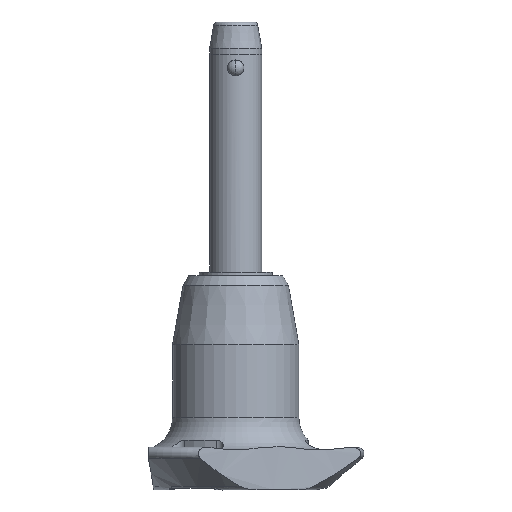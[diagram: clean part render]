
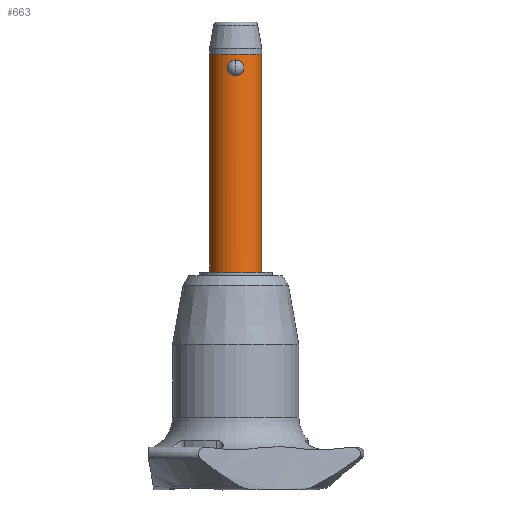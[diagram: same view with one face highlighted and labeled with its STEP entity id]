
A CAD part, front view. The second image highlights one B-rep face of the part: STEP entity #663.
In plain terms, the highlighted cylindrical face has radius 4 mm (diameter 8 mm), a partial arc.
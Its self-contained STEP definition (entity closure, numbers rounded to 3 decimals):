
#48 = FACE_OUTER_BOUND ( 'NONE', #719, .T. ) ;
#110 = CARTESIAN_POINT ( 'NONE',  ( 0.326, -3.99, 0.029 ) ) ;
#123 = CARTESIAN_POINT ( 'NONE',  ( -0.625, -3.951, 2.25 ) ) ;
#135 = CARTESIAN_POINT ( 'NONE',  ( -1.266, -3.794, 1.12 ) ) ;
#136 = CARTESIAN_POINT ( 'NONE',  ( -0.326, -3.99, 0.029 ) ) ;
#190 = DIRECTION ( 'NONE',  ( 1., 0., 0. ) ) ;
#300 = CARTESIAN_POINT ( 'NONE',  ( -0.325, -3.99, 2.371 ) ) ;
#303 = CARTESIAN_POINT ( 'NONE',  ( 1.224, -3.808, 1.52 ) ) ;
#311 = CARTESIAN_POINT ( 'NONE',  ( 4., 0., -30. ) ) ;
#317 = CARTESIAN_POINT ( 'NONE',  ( -0.628, -3.953, 0.143 ) ) ;
#329 = CARTESIAN_POINT ( 'NONE',  ( 0., -4., 2.4 ) ) ;
#342 = CARTESIAN_POINT ( 'NONE',  ( -1.231, -3.806, 1.527 ) ) ;
#343 = CARTESIAN_POINT ( 'NONE',  ( 1.231, -3.806, 0.873 ) ) ;
#415 = CARTESIAN_POINT ( 'NONE',  ( 0., -4., 2.4 ) ) ;
#493 = LINE ( 'NONE', #2726, #1516 ) ;
#515 = CARTESIAN_POINT ( 'NONE',  ( 1.266, -3.794, 1.035 ) ) ;
#559 = CARTESIAN_POINT ( 'NONE',  ( 1.092, -3.848, 0.582 ) ) ;
#647 = CARTESIAN_POINT ( 'NONE',  ( -4., 0., 3.28 ) ) ;
#663 = ADVANCED_FACE ( 'NONE', ( #48, #1801 ), #1612, .T. ) ;
#719 = EDGE_LOOP ( 'NONE', ( #946, #1465, #1288, #802 ) ) ;
#741 = CARTESIAN_POINT ( 'NONE',  ( -1.258, -3.797, 1.038 ) ) ;
#742 = CARTESIAN_POINT ( 'NONE',  ( 0.627, -3.953, 0.143 ) ) ;
#754 = ORIENTED_EDGE ( 'NONE', *, *, #941, .F. ) ;
#765 = CARTESIAN_POINT ( 'NONE',  ( -1.133, -3.836, 1.747 ) ) ;
#799 = VERTEX_POINT ( 'NONE', #1815 ) ;
#802 = ORIENTED_EDGE ( 'NONE', *, *, #2572, .F. ) ;
#819 = CARTESIAN_POINT ( 'NONE',  ( 0., 0., 3.28 ) ) ;
#865 = EDGE_CURVE ( 'NONE', #984, #1747, #2718, .T. ) ;
#923 = CIRCLE ( 'NONE', #2023, 4. ) ;
#941 = EDGE_CURVE ( 'NONE', #1747, #984, #1935, .T. ) ;
#946 = ORIENTED_EDGE ( 'NONE', *, *, #1842, .F. ) ;
#954 = CARTESIAN_POINT ( 'NONE',  ( 1.005, -3.874, 1.953 ) ) ;
#958 = VERTEX_POINT ( 'NONE', #647 ) ;
#971 = CARTESIAN_POINT ( 'NONE',  ( 0.944, -3.887, 0.391 ) ) ;
#982 = CARTESIAN_POINT ( 'NONE',  ( -0.762, -3.927, 2.166 ) ) ;
#984 = VERTEX_POINT ( 'NONE', #415 ) ;
#1172 = CARTESIAN_POINT ( 'NONE',  ( 1.101, -3.846, 1.82 ) ) ;
#1174 = VERTEX_POINT ( 'NONE', #2045 ) ;
#1179 = VERTEX_POINT ( 'NONE', #311 ) ;
#1199 = CARTESIAN_POINT ( 'NONE',  ( -0.164, -4., 2.4 ) ) ;
#1200 = CARTESIAN_POINT ( 'NONE',  ( -0.162, -4., 0. ) ) ;
#1265 = CARTESIAN_POINT ( 'NONE',  ( 0., 0., -30. ) ) ;
#1288 = ORIENTED_EDGE ( 'NONE', *, *, #2257, .T. ) ;
#1323 = EDGE_CURVE ( 'NONE', #1179, #799, #2559, .T. ) ;
#1399 = CARTESIAN_POINT ( 'NONE',  ( 1.199, -3.816, 1.599 ) ) ;
#1403 = DIRECTION ( 'NONE',  ( 0., 0., 1. ) ) ;
#1412 = CARTESIAN_POINT ( 'NONE',  ( 1.132, -3.836, 0.651 ) ) ;
#1465 = ORIENTED_EDGE ( 'NONE', *, *, #1323, .F. ) ;
#1516 = VECTOR ( 'NONE', #1403, 1000. ) ;
#1583 = CARTESIAN_POINT ( 'NONE',  ( 4., 0., -30. ) ) ;
#1604 = CARTESIAN_POINT ( 'NONE',  ( 0.999, -3.874, 0.452 ) ) ;
#1612 = CYLINDRICAL_SURFACE ( 'NONE', #2165, 4. ) ;
#1621 = CARTESIAN_POINT ( 'NONE',  ( -1.101, -3.846, 0.579 ) ) ;
#1635 = CARTESIAN_POINT ( 'NONE',  ( 0., -4., 0. ) ) ;
#1702 = DIRECTION ( 'NONE',  ( 1., 0., 0. ) ) ;
#1705 = VECTOR ( 'NONE', #1820, 1000. ) ;
#1747 = VERTEX_POINT ( 'NONE', #2189 ) ;
#1796 = LINE ( 'NONE', #1583, #1705 ) ;
#1801 = FACE_BOUND ( 'NONE', #2588, .T. ) ;
#1815 = CARTESIAN_POINT ( 'NONE',  ( -4., 0., -30. ) ) ;
#1820 = DIRECTION ( 'NONE',  ( 0., 0., 1. ) ) ;
#1828 = CARTESIAN_POINT ( 'NONE',  ( -0.998, -3.874, 1.949 ) ) ;
#1830 = CARTESIAN_POINT ( 'NONE',  ( -0.768, -3.927, 0.228 ) ) ;
#1842 = EDGE_CURVE ( 'NONE', #799, #958, #493, .T. ) ;
#1847 = CARTESIAN_POINT ( 'NONE',  ( 0.326, -3.99, 2.371 ) ) ;
#1860 = CARTESIAN_POINT ( 'NONE',  ( -1.005, -3.874, 0.447 ) ) ;
#1928 = DIRECTION ( 'NONE',  ( 0., 0., 1. ) ) ;
#1935 = B_SPLINE_CURVE_WITH_KNOTS ( 'NONE', 3,
 ( #2048, #2101, #110, #742, #2500, #971, #1604, #559, #1412, #343, #515, #2090, #2261, #303, #1399, #1172, #954, #2486, #2273, #1847, #2722, #2286 ),
 .UNSPECIFIED., .F., .F.,
 ( 4, 2, 2, 2, 2, 2, 2, 2, 2, 2, 4 ),
 ( 0.004, 0.004, 0.005, 0.005, 0.005, 0.006, 0.006, 0.006, 0.007, 0.007, 0.008 ),
 .UNSPECIFIED. ) ;
#2023 = AXIS2_PLACEMENT_3D ( 'NONE', #819, #1928, #1702 ) ;
#2035 = CARTESIAN_POINT ( 'NONE',  ( -1.224, -3.808, 0.879 ) ) ;
#2045 = CARTESIAN_POINT ( 'NONE',  ( 4., 0., 3.28 ) ) ;
#2046 = CARTESIAN_POINT ( 'NONE',  ( -0.945, -3.887, 2.008 ) ) ;
#2048 = CARTESIAN_POINT ( 'NONE',  ( 0., -4., 0. ) ) ;
#2076 = CARTESIAN_POINT ( 'NONE',  ( -0.553, -3.962, 2.285 ) ) ;
#2089 = CARTESIAN_POINT ( 'NONE',  ( -1.266, -3.794, 1.364 ) ) ;
#2090 = CARTESIAN_POINT ( 'NONE',  ( 1.266, -3.794, 1.281 ) ) ;
#2101 = CARTESIAN_POINT ( 'NONE',  ( 0.162, -4., 0. ) ) ;
#2157 = AXIS2_PLACEMENT_3D ( 'NONE', #1265, #2321, #190 ) ;
#2165 = AXIS2_PLACEMENT_3D ( 'NONE', #2453, #2655, #2441 ) ;
#2189 = CARTESIAN_POINT ( 'NONE',  ( 0., -4., 0. ) ) ;
#2257 = EDGE_CURVE ( 'NONE', #1179, #1174, #1796, .T. ) ;
#2261 = CARTESIAN_POINT ( 'NONE',  ( 1.258, -3.797, 1.361 ) ) ;
#2273 = CARTESIAN_POINT ( 'NONE',  ( 0.629, -3.953, 2.256 ) ) ;
#2286 = CARTESIAN_POINT ( 'NONE',  ( 0., -4., 2.4 ) ) ;
#2321 = DIRECTION ( 'NONE',  ( 0., 0., -1. ) ) ;
#2441 = DIRECTION ( 'NONE',  ( 1., 0., 0. ) ) ;
#2453 = CARTESIAN_POINT ( 'NONE',  ( 0., 0., -30. ) ) ;
#2485 = CARTESIAN_POINT ( 'NONE',  ( -1.199, -3.816, 0.802 ) ) ;
#2486 = CARTESIAN_POINT ( 'NONE',  ( 0.769, -3.927, 2.171 ) ) ;
#2500 = CARTESIAN_POINT ( 'NONE',  ( 0.768, -3.927, 0.228 ) ) ;
#2559 = CIRCLE ( 'NONE', #2157, 4. ) ;
#2572 = EDGE_CURVE ( 'NONE', #958, #1174, #923, .T. ) ;
#2588 = EDGE_LOOP ( 'NONE', ( #2652, #754 ) ) ;
#2652 = ORIENTED_EDGE ( 'NONE', *, *, #865, .F. ) ;
#2655 = DIRECTION ( 'NONE',  ( 0., 0., 1. ) ) ;
#2705 = CARTESIAN_POINT ( 'NONE',  ( -1.092, -3.848, 1.818 ) ) ;
#2718 = B_SPLINE_CURVE_WITH_KNOTS ( 'NONE', 3,
 ( #329, #1199, #300, #2076, #123, #982, #2734, #2046, #1828, #2705, #765, #342, #2089, #135, #741, #2035, #2485, #1621, #1860, #1830, #317, #136, #1200, #1635 ),
 .UNSPECIFIED., .F., .F.,
 ( 4, 2, 2, 2, 2, 2, 2, 2, 2, 2, 2, 4 ),
 ( 0., 0., 0.001, 0.001, 0.001, 0.001, 0.002, 0.002, 0.002, 0.003, 0.003, 0.004 ),
 .UNSPECIFIED. ) ;
#2722 = CARTESIAN_POINT ( 'NONE',  ( 0.164, -4., 2.4 ) ) ;
#2726 = CARTESIAN_POINT ( 'NONE',  ( -4., 0., -30. ) ) ;
#2734 = CARTESIAN_POINT ( 'NONE',  ( -0.827, -3.914, 2.117 ) ) ;
